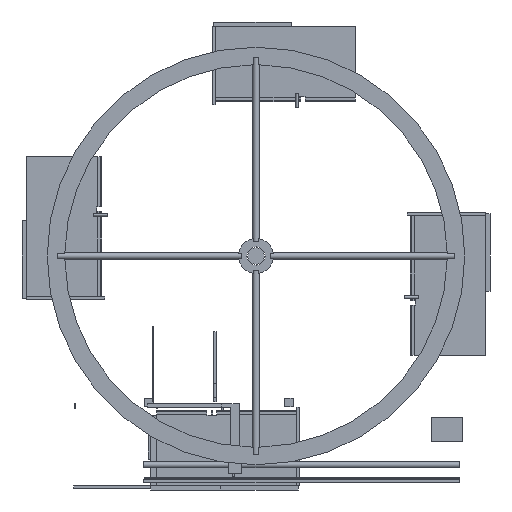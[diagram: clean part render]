
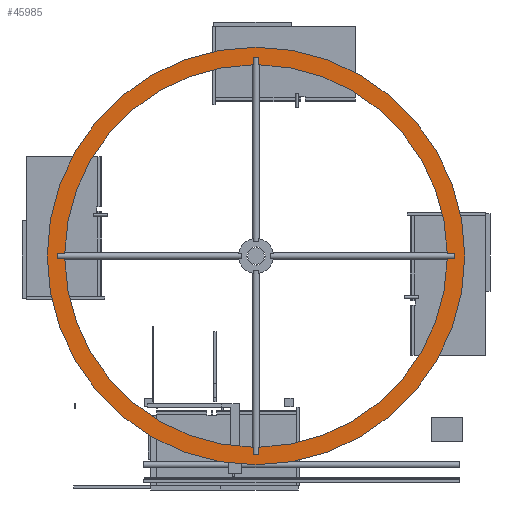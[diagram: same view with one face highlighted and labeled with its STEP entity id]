
A CAD part, left-side view. The second image highlights one B-rep face of the part: STEP entity #45985.
In plain terms, the highlighted planar face has unit normal (-1, 0, 0).
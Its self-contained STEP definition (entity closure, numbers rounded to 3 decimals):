
#45823 = VERTEX_POINT('',#45824);
#45824 = CARTESIAN_POINT('',(-120.,-150.,648.));
#45830 = EDGE_CURVE('',#45823,#45823,#45831,.T.);
#45831 = CIRCLE('',#45832,298.);
#45832 = AXIS2_PLACEMENT_3D('',#45833,#45834,#45835);
#45833 = CARTESIAN_POINT('',(-120.,-150.,350.));
#45834 = DIRECTION('',(1.,0.,0.));
#45835 = DIRECTION('',(-0.,0.,1.));
#45985 = ADVANCED_FACE('',(#45986,#45989),#46123,.F.);
#45986 = FACE_BOUND('',#45987,.F.);
#45987 = EDGE_LOOP('',(#45988));
#45988 = ORIENTED_EDGE('',*,*,#45830,.T.);
#45989 = FACE_BOUND('',#45990,.F.);
#45990 = EDGE_LOOP('',(#45991,#46002,#46010,#46018,#46026,#46035,#46043,
    #46051,#46059,#46068,#46076,#46084,#46092,#46101,#46109,#46117));
#45991 = ORIENTED_EDGE('',*,*,#45992,.F.);
#45992 = EDGE_CURVE('',#45993,#45995,#45997,.T.);
#45993 = VERTEX_POINT('',#45994);
#45994 = CARTESIAN_POINT('',(-120.,-154.,622.971));
#45995 = VERTEX_POINT('',#45996);
#45996 = CARTESIAN_POINT('',(-120.,-422.971,354.));
#45997 = CIRCLE('',#45998,273.);
#45998 = AXIS2_PLACEMENT_3D('',#45999,#46000,#46001);
#45999 = CARTESIAN_POINT('',(-120.,-150.,350.));
#46000 = DIRECTION('',(1.,0.,0.));
#46001 = DIRECTION('',(-0.,0.,1.));
#46002 = ORIENTED_EDGE('',*,*,#46003,.T.);
#46003 = EDGE_CURVE('',#45993,#46004,#46006,.T.);
#46004 = VERTEX_POINT('',#46005);
#46005 = CARTESIAN_POINT('',(-120.,-154.,633.));
#46006 = LINE('',#46007,#46008);
#46007 = CARTESIAN_POINT('',(-120.,-154.,370.));
#46008 = VECTOR('',#46009,1.);
#46009 = DIRECTION('',(0.,0.,1.));
#46010 = ORIENTED_EDGE('',*,*,#46011,.F.);
#46011 = EDGE_CURVE('',#46012,#46004,#46014,.T.);
#46012 = VERTEX_POINT('',#46013);
#46013 = CARTESIAN_POINT('',(-120.,-146.,633.));
#46014 = LINE('',#46015,#46016);
#46015 = CARTESIAN_POINT('',(-120.,-150.,633.));
#46016 = VECTOR('',#46017,1.);
#46017 = DIRECTION('',(0.,-1.,0.));
#46018 = ORIENTED_EDGE('',*,*,#46019,.F.);
#46019 = EDGE_CURVE('',#46020,#46012,#46022,.T.);
#46020 = VERTEX_POINT('',#46021);
#46021 = CARTESIAN_POINT('',(-120.,-146.,622.971));
#46022 = LINE('',#46023,#46024);
#46023 = CARTESIAN_POINT('',(-120.,-146.,370.));
#46024 = VECTOR('',#46025,1.);
#46025 = DIRECTION('',(0.,0.,1.));
#46026 = ORIENTED_EDGE('',*,*,#46027,.F.);
#46027 = EDGE_CURVE('',#46028,#46020,#46030,.T.);
#46028 = VERTEX_POINT('',#46029);
#46029 = CARTESIAN_POINT('',(-120.,122.971,354.));
#46030 = CIRCLE('',#46031,273.);
#46031 = AXIS2_PLACEMENT_3D('',#46032,#46033,#46034);
#46032 = CARTESIAN_POINT('',(-120.,-150.,350.));
#46033 = DIRECTION('',(1.,0.,0.));
#46034 = DIRECTION('',(-0.,0.,1.));
#46035 = ORIENTED_EDGE('',*,*,#46036,.T.);
#46036 = EDGE_CURVE('',#46028,#46037,#46039,.T.);
#46037 = VERTEX_POINT('',#46038);
#46038 = CARTESIAN_POINT('',(-120.,133.,354.));
#46039 = LINE('',#46040,#46041);
#46040 = CARTESIAN_POINT('',(-120.,-130.,354.));
#46041 = VECTOR('',#46042,1.);
#46042 = DIRECTION('',(0.,1.,0.));
#46043 = ORIENTED_EDGE('',*,*,#46044,.F.);
#46044 = EDGE_CURVE('',#46045,#46037,#46047,.T.);
#46045 = VERTEX_POINT('',#46046);
#46046 = CARTESIAN_POINT('',(-120.,133.,346.));
#46047 = LINE('',#46048,#46049);
#46048 = CARTESIAN_POINT('',(-120.,133.,350.));
#46049 = VECTOR('',#46050,1.);
#46050 = DIRECTION('',(0.,0.,1.));
#46051 = ORIENTED_EDGE('',*,*,#46052,.F.);
#46052 = EDGE_CURVE('',#46053,#46045,#46055,.T.);
#46053 = VERTEX_POINT('',#46054);
#46054 = CARTESIAN_POINT('',(-120.,122.971,346.));
#46055 = LINE('',#46056,#46057);
#46056 = CARTESIAN_POINT('',(-120.,-130.,346.));
#46057 = VECTOR('',#46058,1.);
#46058 = DIRECTION('',(0.,1.,0.));
#46059 = ORIENTED_EDGE('',*,*,#46060,.F.);
#46060 = EDGE_CURVE('',#46061,#46053,#46063,.T.);
#46061 = VERTEX_POINT('',#46062);
#46062 = CARTESIAN_POINT('',(-120.,-146.,77.029));
#46063 = CIRCLE('',#46064,273.);
#46064 = AXIS2_PLACEMENT_3D('',#46065,#46066,#46067);
#46065 = CARTESIAN_POINT('',(-120.,-150.,350.));
#46066 = DIRECTION('',(1.,0.,0.));
#46067 = DIRECTION('',(-0.,0.,1.));
#46068 = ORIENTED_EDGE('',*,*,#46069,.T.);
#46069 = EDGE_CURVE('',#46061,#46070,#46072,.T.);
#46070 = VERTEX_POINT('',#46071);
#46071 = CARTESIAN_POINT('',(-120.,-146.,67.));
#46072 = LINE('',#46073,#46074);
#46073 = CARTESIAN_POINT('',(-120.,-146.,330.));
#46074 = VECTOR('',#46075,1.);
#46075 = DIRECTION('',(0.,0.,-1.));
#46076 = ORIENTED_EDGE('',*,*,#46077,.F.);
#46077 = EDGE_CURVE('',#46078,#46070,#46080,.T.);
#46078 = VERTEX_POINT('',#46079);
#46079 = CARTESIAN_POINT('',(-120.,-154.,67.));
#46080 = LINE('',#46081,#46082);
#46081 = CARTESIAN_POINT('',(-120.,-150.,67.));
#46082 = VECTOR('',#46083,1.);
#46083 = DIRECTION('',(-0.,1.,0.));
#46084 = ORIENTED_EDGE('',*,*,#46085,.F.);
#46085 = EDGE_CURVE('',#46086,#46078,#46088,.T.);
#46086 = VERTEX_POINT('',#46087);
#46087 = CARTESIAN_POINT('',(-120.,-154.,77.029));
#46088 = LINE('',#46089,#46090);
#46089 = CARTESIAN_POINT('',(-120.,-154.,330.));
#46090 = VECTOR('',#46091,1.);
#46091 = DIRECTION('',(0.,0.,-1.));
#46092 = ORIENTED_EDGE('',*,*,#46093,.F.);
#46093 = EDGE_CURVE('',#46094,#46086,#46096,.T.);
#46094 = VERTEX_POINT('',#46095);
#46095 = CARTESIAN_POINT('',(-120.,-422.971,346.));
#46096 = CIRCLE('',#46097,273.);
#46097 = AXIS2_PLACEMENT_3D('',#46098,#46099,#46100);
#46098 = CARTESIAN_POINT('',(-120.,-150.,350.));
#46099 = DIRECTION('',(1.,0.,0.));
#46100 = DIRECTION('',(-0.,0.,1.));
#46101 = ORIENTED_EDGE('',*,*,#46102,.T.);
#46102 = EDGE_CURVE('',#46094,#46103,#46105,.T.);
#46103 = VERTEX_POINT('',#46104);
#46104 = CARTESIAN_POINT('',(-120.,-433.,346.));
#46105 = LINE('',#46106,#46107);
#46106 = CARTESIAN_POINT('',(-120.,-170.,346.));
#46107 = VECTOR('',#46108,1.);
#46108 = DIRECTION('',(0.,-1.,0.));
#46109 = ORIENTED_EDGE('',*,*,#46110,.F.);
#46110 = EDGE_CURVE('',#46111,#46103,#46113,.T.);
#46111 = VERTEX_POINT('',#46112);
#46112 = CARTESIAN_POINT('',(-120.,-433.,354.));
#46113 = LINE('',#46114,#46115);
#46114 = CARTESIAN_POINT('',(-120.,-433.,350.));
#46115 = VECTOR('',#46116,1.);
#46116 = DIRECTION('',(0.,0.,-1.));
#46117 = ORIENTED_EDGE('',*,*,#46118,.F.);
#46118 = EDGE_CURVE('',#45995,#46111,#46119,.T.);
#46119 = LINE('',#46120,#46121);
#46120 = CARTESIAN_POINT('',(-120.,-170.,354.));
#46121 = VECTOR('',#46122,1.);
#46122 = DIRECTION('',(0.,-1.,0.));
#46123 = PLANE('',#46124);
#46124 = AXIS2_PLACEMENT_3D('',#46125,#46126,#46127);
#46125 = CARTESIAN_POINT('',(-120.,-150.,350.));
#46126 = DIRECTION('',(1.,0.,0.));
#46127 = DIRECTION('',(-0.,0.,1.));
